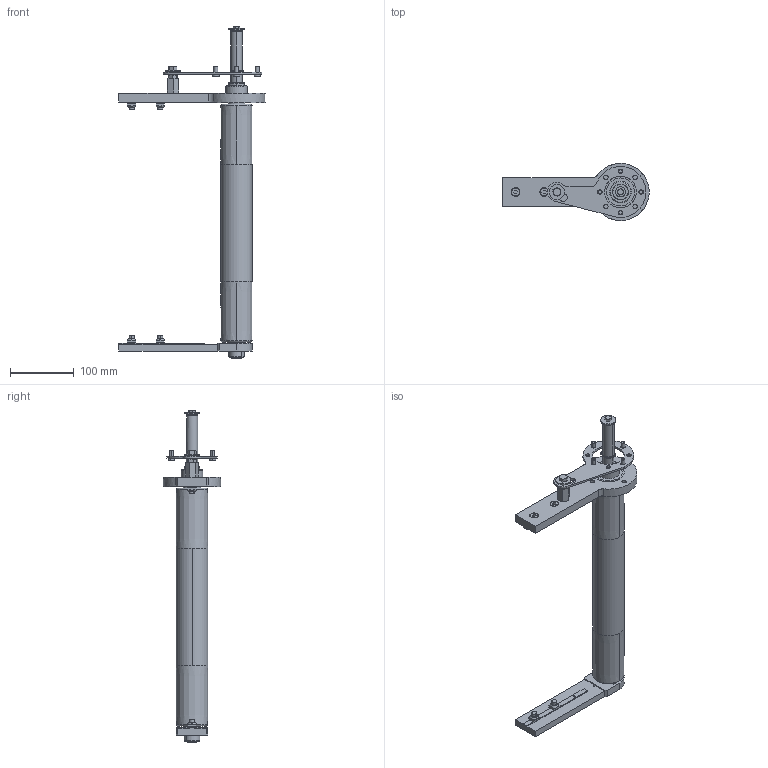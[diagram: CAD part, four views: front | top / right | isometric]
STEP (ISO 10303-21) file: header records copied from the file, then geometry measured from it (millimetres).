
FILE_DESCRIPTION (( 'STEP AP203' ), '1' );
FILE_NAME ('084.050.KD.44.350.STEP', '2019-07-29T10:10:35', ( '' ), ( '' ), 'SwSTEP 2.0', 'SolidWorks 2018', '' );
FILE_SCHEMA (( 'CONFIG_CONTROL_DESIGN' ));
Length unit declared in the file: millimetre
Products named in the file (22): VITI TE UNI 5739_M6x16 UNI 5739; 084.802.034_084.802.034; RONDELLE FASCIA LARGA UNI 6593_8.4x24 UNI 6593; 084.802.017_084.802.017; Circlip DIN 471 - 18 x 1.2_Circlip DIN 471 - 18 x 1.2; 084.050.KD.44.350; 084.807.005; 084.802.027; 084.815.128_Default<A macchina>; 084.301.000 VITI ALUSIC_084.301.003; 084.807.002_084.807.002; 084.000.A02_CON DADO; 084.807.001_084.807.001; 084.302.000 DADI ALUSIC 13x13_084.302.004; RONDELLE FASCIA LARGA UNI 6593_6.4x24 UNI 6593; GRANI A PUNTA PIATTA UNI 5923_M8x25 UNI 5923; 084.811.004; 084.811.002; DADI ESAGONALI RIBASSATI UNI 5589_M8 UNI 5589; VITI TE UNI 5739_M8x25 UNI 5739; 084.810.001; 084.301.000 VITI ALUSIC_084.301.010
Assembly tree (31 placements, depth 3):
  084.050.KD.44.350
    084.807.002_084.807.002
    084.802.017_084.802.017
    084.811.004
    084.815.128_Default<A macchina>
    084.810.001  x2
    084.301.000 VITI ALUSIC_084.301.003  x4
    084.302.000 DADI ALUSIC 13x13_084.302.004  x4
    084.807.001_084.807.001
    084.802.034_084.802.034
    084.811.002
    084.000.A02_CON DADO
      084.807.005
      084.802.027
      GRANI A PUNTA PIATTA UNI 5923_M8x25 UNI 5923
      084.301.000 VITI ALUSIC_084.301.010  x4
      DADI ESAGONALI RIBASSATI UNI 5589_M8 UNI 5589
      RONDELLE FASCIA LARGA UNI 6593_8.4x24 UNI 6593
      VITI TE UNI 5739_M8x25 UNI 5739
    RONDELLE FASCIA LARGA UNI 6593_6.4x24 UNI 6593
    VITI TE UNI 5739_M6x16 UNI 5739
    Circlip DIN 471 - 18 x 1.2_Circlip DIN 471 - 18 x 1.2
Bounding box: 230 x 90 x 522 mm (x, y, z)
Volume: 626882.1 mm3; surface area: 323861.6 mm2
Topology: 35 solids, 36 shells, 805 faces, 1965 edges, 1264 vertices
Faces by surface type: plane 339, cylinder 281, cone 100, torus 76, sphere 9
Entity records: 21308 total; most frequent: CARTESIAN_POINT 3806, DIRECTION 3360, ORIENTED_EDGE 2950, EDGE_CURVE 1475, AXIS2_PLACEMENT_3D 1353, VERTEX_POINT 949, CIRCLE 717, EDGE_LOOP 714
